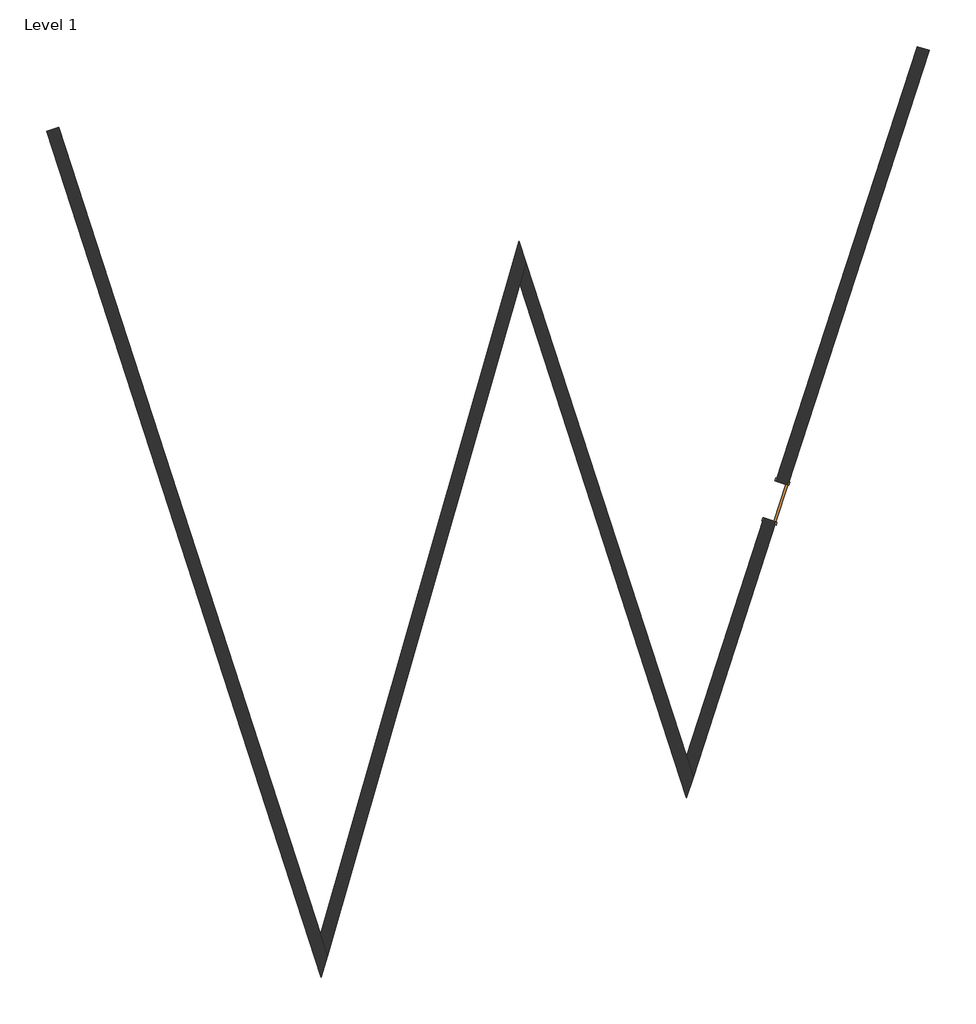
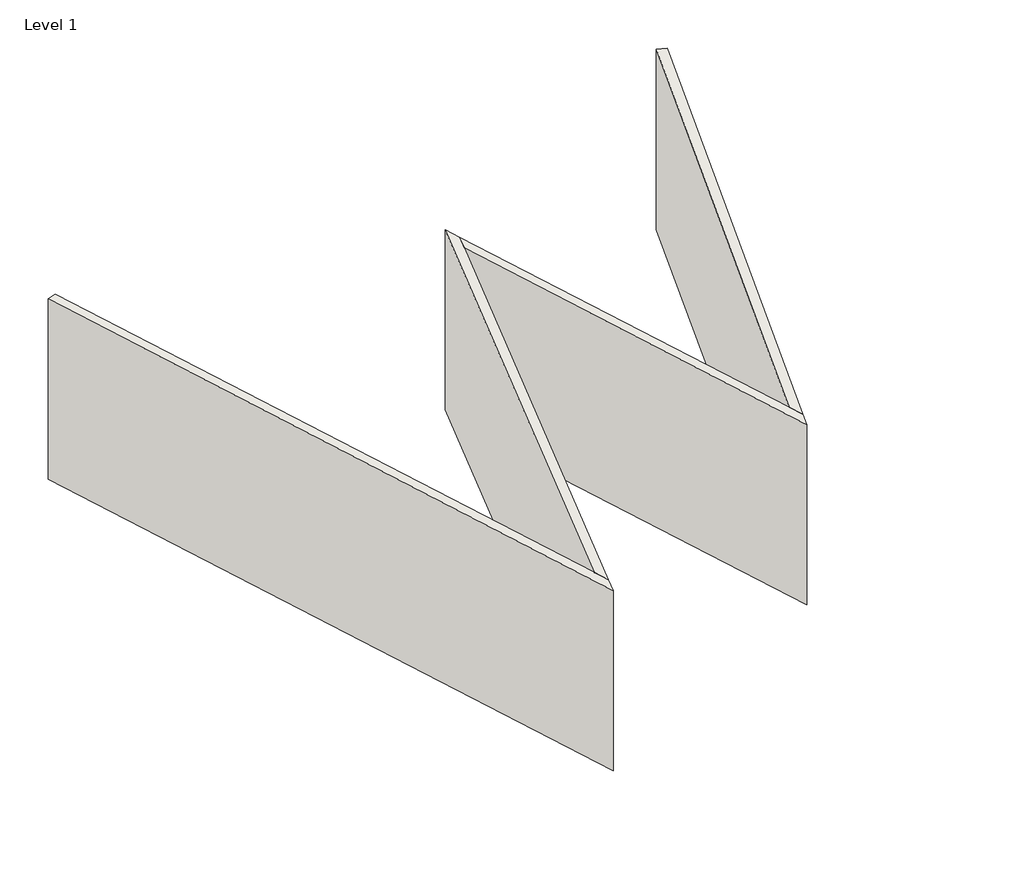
# One storey: 4 walls, 1 door.
"""IFC4 building model written with IfcOpenShell, lengths in millimetres."""

from ifc_helpers import new_model, si_unit, origin, place, context, project, spatial, faceted_brep, transform, mapped, element, save
from components import door_2dbff2f1

model = new_model("IFC4")

# Units and contexts
model_context = context("Model", 3, world=origin())
ifc_project = project(units=[si_unit("LENGTHUNIT", "METRE", prefix="MILLI")], contexts=[model_context])

# Site, building, storey
site = spatial("IfcSite", under=ifc_project)
building = spatial("IfcBuilding", under=site)
storey = spatial("IfcBuildingStorey", under=building, Name="Level 1", Elevation=0.0)

# Door
placement = place(None, origin())
door_shape = door_2dbff2f1(model_context)
element("IfcDoor", 1, ObjectType="Single-Flush : 36\" x 84\"", at=placement, inside=storey, context=model_context, shape_type="MappedRepresentation", body=[
    mapped(door_shape, transform((4584.3144934, 1652.0282297, 0.0), x_axis=(-0.30901699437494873, -0.9510565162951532, 0.0), y_axis=(0.9510565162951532, -0.30901699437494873, 0.0), z_axis=(0.0, 0.0, 1.0))),
])

# Walls
element("IfcWall", 2, ObjectType="Generic - 300mm", at=placement, inside=storey, context=model_context, shape_type="Brep", body=[
    faceted_brep([(-12696.0090279, 10417.8283214, 0.0), (-6186.6810288, -9615.8232993, 0.0), (-6186.6810288, -9615.8232993, 6096.0), (-12696.0090279, 10417.8283214, 6096.0), (-12410.692073, 10510.5334197, 0.0), (-12410.692073, 10510.5334197, 6096.0), (-6204.5887875, -8589.888492, 6096.0), (-6038.8050343, -9100.11842, 6096.0), (-6038.8050343, -9100.11842, 0.0), (-6204.5887875, -8589.888492, 0.0)], [[[0, 1, 2, 3]], [[4, 5, 6, 7, 8, 9]], [[1, 0, 4, 9, 8]], [[3, 2, 7, 6, 5]], [[0, 3, 5, 4]], [[2, 1, 8, 7]]]),
])
element("IfcWall", 3, ObjectType="Generic - 300mm", at=placement, inside=storey, context=model_context, shape_type="Brep", body=[
    faceted_brep([(-6038.8050343, -9100.11842, 0.0), (-1481.8821299, 6791.7603363, 0.0), (-1334.0061353, 7307.4652156, 0.0), (-1334.0061353, 7307.4652156, 6096.0), (-1481.8821299, 6791.7603363, 6096.0), (-6038.8050343, -9100.11842, 6096.0), (-6204.5887875, -8589.888492, 0.0), (-6204.5887875, -8589.888492, 6096.0), (-1499.7898885, 7817.6951436, 6096.0), (-1499.7898885, 7817.6951436, 0.0)], [[[0, 1, 2, 3, 4, 5]], [[6, 7, 8, 9]], [[2, 1, 0, 6, 9]], [[5, 4, 3, 8, 7]], [[0, 5, 7, 6]], [[3, 2, 9, 8]]]),
])
element("IfcWall", 4, ObjectType="Generic - 300mm", at=placement, inside=storey, context=model_context, shape_type="Brep", body=[
    faceted_brep([(-1481.8821299, 6791.7603363, 0.0), (2465.075946, -5355.7275557, 0.0), (2465.075946, -5355.7275557, 6096.0), (-1481.8821299, 6791.7603363, 6096.0), (-1334.0061353, 7307.4652156, 0.0), (-1334.0061353, 7307.4652156, 6096.0), (2465.075946, -4384.9071624, 6096.0), (2622.7952796, -4870.317359, 6096.0), (2622.7952796, -4870.317359, 0.0), (2465.075946, -4384.9071624, 0.0)], [[[0, 1, 2, 3]], [[4, 5, 6, 7, 8, 9]], [[1, 0, 4, 9, 8]], [[3, 2, 7, 6, 5]], [[0, 3, 5, 4]], [[2, 1, 8, 7]]]),
])
element("IfcWall", 5, ObjectType="Generic - 300mm", at=placement, inside=storey, context=model_context, shape_type="Brep", body=[
    faceted_brep([(2622.7952796, -4870.317359, 0.0), (4585.690401, 1170.8526413, 0.0), (4585.690401, 1170.8526413, 2133.6), (4868.2555407, 2040.4987198, 2133.6), (4868.2555407, 2040.4987198, 0.0), (8211.9430266, 12331.3106487, 0.0), (8211.9430266, 12331.3106487, 6096.0), (2622.7952796, -4870.317359, 6096.0), (4300.3734461, 1263.5577396, 2133.6), (4300.3734461, 1263.5577396, 0.0), (2465.075946, -4384.9071624, 0.0), (2465.075946, -4384.9071624, 6096.0), (7926.6260717, 12424.015747, 6096.0), (7926.6260717, 12424.015747, 0.0), (4582.9385858, 2133.2038181, 0.0), (4582.9385858, 2133.2038181, 2133.6)], [[[0, 1, 2, 3, 4, 5, 6, 7]], [[8, 9, 10, 11, 12, 13, 14, 15]], [[14, 13, 5, 4]], [[10, 9, 1, 0]], [[6, 5, 13, 12]], [[7, 6, 12, 11]], [[0, 7, 11, 10]], [[2, 1, 9, 8]], [[3, 2, 8, 15]], [[4, 3, 15, 14]]]),
])

save(model, "model.ifc")
